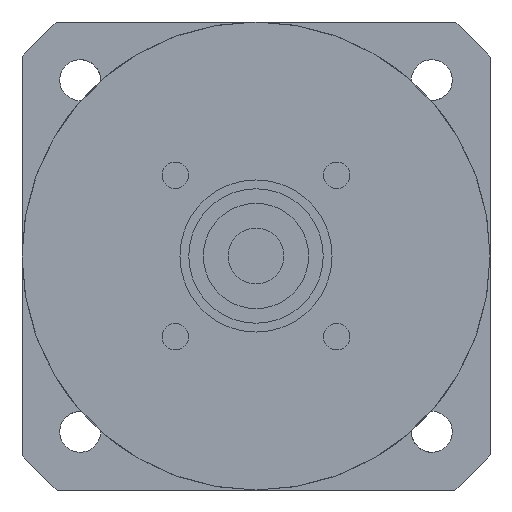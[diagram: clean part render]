
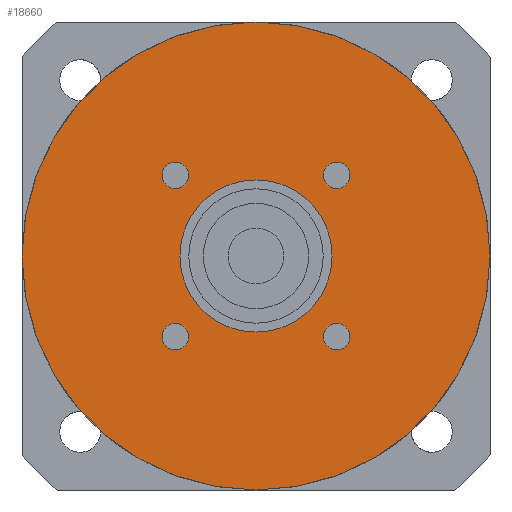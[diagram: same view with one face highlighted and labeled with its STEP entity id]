
A CAD part, left-side view. The second image highlights one B-rep face of the part: STEP entity #18660.
In plain terms, the highlighted planar face has unit normal (-1, 0, 0) as drawn and (0, 0, -1) by its records, which use the part's own axes.
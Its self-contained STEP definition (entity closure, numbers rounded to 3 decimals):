
#17440=CARTESIAN_POINT('',(0.,0.,-42.)
);
#17450=DIRECTION('',(0.,0.,-1.));
#17460=DIRECTION('',(0.,-1.,0.));
#17470=AXIS2_PLACEMENT_3D('',#17440,#17450,#17460);
#17480=CIRCLE('',#17470,40.);
#17490=CARTESIAN_POINT('',(0.,-40.,-42.));
#17500=VERTEX_POINT('',#17490);
#17510=CARTESIAN_POINT('',(-40.,0.,-42.));
#17520=VERTEX_POINT('',#17510);
#17530=EDGE_CURVE('',#17500,#17520,#17480,.T.);
#17670=CARTESIAN_POINT('',(40.,0.,-42.));
#17680=VERTEX_POINT('',#17670);
#17710=EDGE_CURVE('',#17680,#17500,#17480,.T.);
#17760=CARTESIAN_POINT('',(0.,0.,-42.)
);
#17770=DIRECTION('',(0.,0.,-1.));
#17780=DIRECTION('',(1.,0.,0.));
#17790=AXIS2_PLACEMENT_3D('',#17760,#17770,#17780);
#17800=PLANE('',#17790);
#17810=CARTESIAN_POINT('',(13.789,13.789,-42.));
#17820=DIRECTION('',(0.,0.,-1.));
#17830=DIRECTION('',(0.,1.,0.));
#17840=AXIS2_PLACEMENT_3D('',#17810,#17820,#17830);
#17850=CIRCLE('',#17840,2.25);
#17860=CARTESIAN_POINT('',(13.789,16.039,-42.));
#17870=VERTEX_POINT('',#17860);
#17880=CARTESIAN_POINT('',(13.789,11.539,-42.));
#17890=VERTEX_POINT('',#17880);
#17900=EDGE_CURVE('',#17870,#17890,#17850,.T.);
#17910=ORIENTED_EDGE('',*,*,#17900,.F.);
#17920=EDGE_CURVE('',#17890,#17870,#17850,.T.);
#17930=ORIENTED_EDGE('',*,*,#17920,.F.);
#17940=EDGE_LOOP('',(#17930,#17910));
#17950=FACE_BOUND('',#17940,.T.);
#17960=CARTESIAN_POINT('',(-13.789,13.789,-42.));
#17970=DIRECTION('',(0.,0.,-1.));
#17980=DIRECTION('',(-1.,0.,0.));
#17990=AXIS2_PLACEMENT_3D('',#17960,#17970,#17980);
#18000=CIRCLE('',#17990,2.25);
#18010=CARTESIAN_POINT('',(-16.039,13.789,-42.));
#18020=VERTEX_POINT('',#18010);
#18030=CARTESIAN_POINT('',(-11.539,13.789,-42.));
#18040=VERTEX_POINT('',#18030);
#18050=EDGE_CURVE('',#18020,#18040,#18000,.T.);
#18060=ORIENTED_EDGE('',*,*,#18050,.F.);
#18070=EDGE_CURVE('',#18040,#18020,#18000,.T.);
#18080=ORIENTED_EDGE('',*,*,#18070,.F.);
#18090=EDGE_LOOP('',(#18080,#18060));
#18100=FACE_BOUND('',#18090,.T.);
#18110=CARTESIAN_POINT('',(-13.789,-13.789,-42.));
#18120=DIRECTION('',(0.,0.,-1.));
#18130=DIRECTION('',(0.,-1.,0.));
#18140=AXIS2_PLACEMENT_3D('',#18110,#18120,#18130);
#18150=CIRCLE('',#18140,2.25);
#18160=CARTESIAN_POINT('',(-13.789,-16.039,-42.));
#18170=VERTEX_POINT('',#18160);
#18180=CARTESIAN_POINT('',(-13.789,-11.539,-42.));
#18190=VERTEX_POINT('',#18180);
#18200=EDGE_CURVE('',#18170,#18190,#18150,.T.);
#18210=ORIENTED_EDGE('',*,*,#18200,.F.);
#18220=EDGE_CURVE('',#18190,#18170,#18150,.T.);
#18230=ORIENTED_EDGE('',*,*,#18220,.F.);
#18240=EDGE_LOOP('',(#18230,#18210));
#18250=FACE_BOUND('',#18240,.T.);
#18260=CARTESIAN_POINT('',(0.,0.,
-42.));
#18270=DIRECTION('',(0.,0.,1.));
#18280=DIRECTION('',(0.,1.,0.));
#18290=AXIS2_PLACEMENT_3D('',#18260,#18270,#18280);
#18300=CIRCLE('',#18290,13.);
#18310=CARTESIAN_POINT('',(-13.,0.,-42.));
#18320=VERTEX_POINT('',#18310);
#18330=CARTESIAN_POINT('',(13.,0.,-42.));
#18340=VERTEX_POINT('',#18330);
#18350=EDGE_CURVE('',#18320,#18340,#18300,.T.);
#18360=ORIENTED_EDGE('',*,*,#18350,.T.);
#18370=CARTESIAN_POINT('',(0.,13.,-42.));
#18380=VERTEX_POINT('',#18370);
#18390=EDGE_CURVE('',#18380,#18320,#18300,.T.);
#18400=ORIENTED_EDGE('',*,*,#18390,.T.);
#18410=EDGE_CURVE('',#18340,#18380,#18300,.T.);
#18420=ORIENTED_EDGE('',*,*,#18410,.T.);
#18430=EDGE_LOOP('',(#18420,#18400,#18360));
#18440=FACE_BOUND('',#18430,.T.);
#18450=CARTESIAN_POINT('',(13.789,-13.789,-42.));
#18460=DIRECTION('',(0.,0.,-1.));
#18470=DIRECTION('',(1.,0.,0.));
#18480=AXIS2_PLACEMENT_3D('',#18450,#18460,#18470);
#18490=CIRCLE('',#18480,2.25);
#18500=CARTESIAN_POINT('',(16.039,-13.789,-42.));
#18510=VERTEX_POINT('',#18500);
#18520=CARTESIAN_POINT('',(11.539,-13.789,-42.));
#18530=VERTEX_POINT('',#18520);
#18540=EDGE_CURVE('',#18510,#18530,#18490,.T.);
#18550=ORIENTED_EDGE('',*,*,#18540,.F.);
#18560=EDGE_CURVE('',#18530,#18510,#18490,.T.);
#18570=ORIENTED_EDGE('',*,*,#18560,.F.);
#18580=EDGE_LOOP('',(#18570,#18550));
#18590=FACE_BOUND('',#18580,.T.);
#18600=EDGE_CURVE('',#17520,#17680,#17480,.T.);
#18610=ORIENTED_EDGE('',*,*,#18600,.T.);
#18620=ORIENTED_EDGE('',*,*,#17530,.T.);
#18630=ORIENTED_EDGE('',*,*,#17710,.T.);
#18640=EDGE_LOOP('',(#18630,#18620,#18610));
#18650=FACE_OUTER_BOUND('',#18640,.T.);
#18660=ADVANCED_FACE('',(#17950,#18100,#18250,#18440,#18590,#18650),
#17800,.T.);
